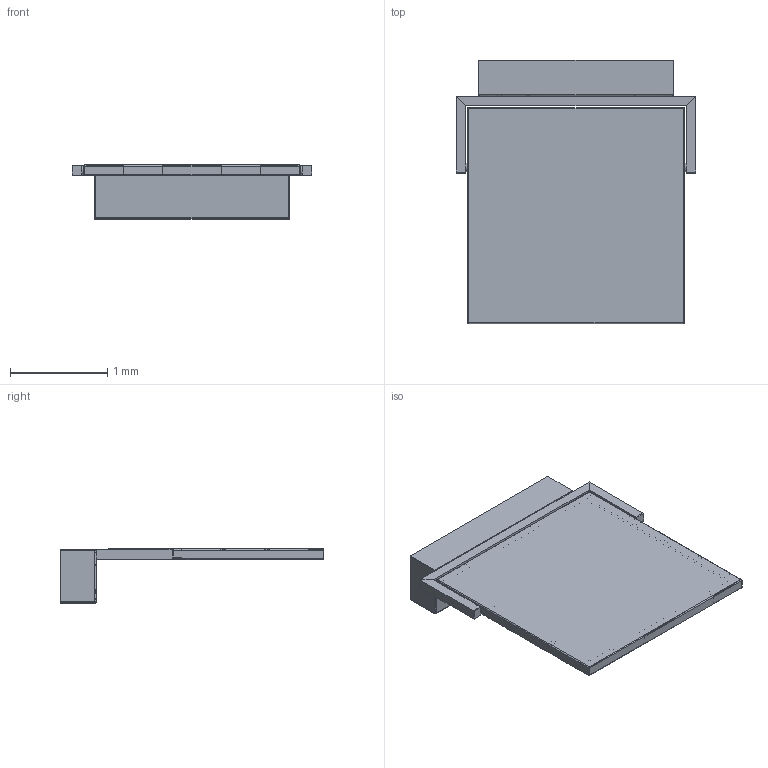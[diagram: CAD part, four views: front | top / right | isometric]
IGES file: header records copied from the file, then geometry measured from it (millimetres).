
Global section: file name: BlancoWhite wall C1; native system: Unknown; preprocessor: BodyObjectToATFToIges; author: Autodesk 3ds Max; organization: Autodesk; date: 20171115.174934; units: centimetre
Bounding box: 2.46 x 2.71 x 0.56 mm (x, y, z)
Volume: 0.5 mm3; surface area: 20.2 mm2
Topology: 1 solids, 1 shells, 484 faces, 1290 edges, 793 vertices
Faces by surface type: bspline 484
